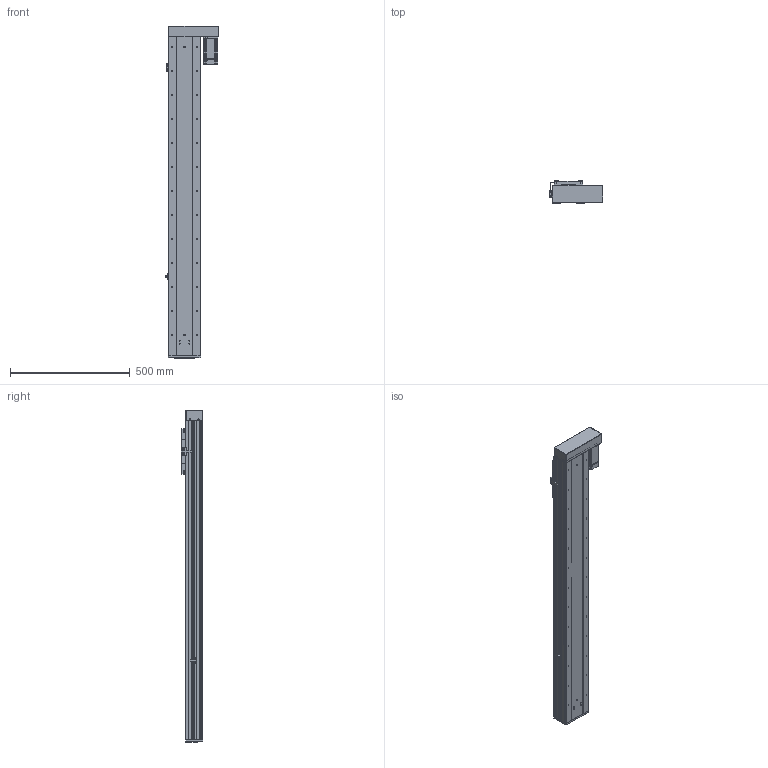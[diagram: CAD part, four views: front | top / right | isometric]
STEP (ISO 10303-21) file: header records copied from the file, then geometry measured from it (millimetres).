
FILE_DESCRIPTION (( 'STEP AP203' ), '1' );
FILE_NAME ('RY140F-L2020-300-RK.SLDASM_1050.step', '2021-03-02T08:50:53', ( '盈信电脑' ), ( '东莞市道滘镇水果街19号' ), 'SwSTEP 2.0', 'SolidWorks 2012', '' );
FILE_SCHEMA (( 'CONFIG_CONTROL_DESIGN' ));
Products named in the file (19): RY140F-L2020-300-RK.SLDASM_1050; RY140F-酘衵殏萇儂欶(400W); 侐源滅袉蝶; RY140F-左右折电机安装板(400W M5); RY140F-转折折电机座（7001）; 覜茼ん672; RY140F-672覜茼んえ; RY140F-詩湍揤え; RY140F-后盖板(铝件）; 15; RY140F-直连型材铝滑块(16丝杆); 侂狟400W侜督萇儂; RY140F-詩湍幗謫粣; RY140F-直连型材铝滑块连接座; RY140F-滅鳥奻裔; RY100F-詩湍揤踡謫; RY140F-300-RK蛌殏詩湍_1050; RY140F-300-RK倰第奻裔啣_1050; RY140F-300-RK倰第菁釱_1050
Assembly tree (23 placements, depth 3):
  RY140F-L2020-300-RK.SLDASM_1050
    RY140F-300-RK倰第菁釱_1050
    RY140F-300-RK倰第奻裔啣_1050  x2
    RY140F-300-RK蛌殏詩湍_1050
    RY140F-直连型材铝滑块连接座
    RY140F-滅鳥奻裔
    RY140F-詩湍幗謫粣
    RY100F-詩湍揤踡謫
    RY140F-直连型材铝滑块(16丝杆)
    RY140F-后盖板(铝件）
    侂狟400W侜督萇儂
      15
    覜茼ん672
    RY140F-672覜茼んえ
    RY140F-詩湍揤え  x2
    侐源滅袉蝶  x4
    RY140F-转折折电机座（7001）
    RY140F-左右折电机安装板(400W M5)
    RY140F-酘衵殏萇儂欶(400W)
Bounding box: 224.7 x 91 x 1384 mm (x, y, z)
Volume: 5122871.9 mm3; surface area: 1835762.3 mm2
Topology: 22 solids, 22 shells, 2105 faces, 5733 edges, 3620 vertices
Faces by surface type: cylinder 1032, plane 789, cone 254, bspline 26, torus 4
Entity records: 66231 total; most frequent: CARTESIAN_POINT 13909, DIRECTION 10674, ORIENTED_EDGE 10298, EDGE_CURVE 5149, AXIS2_PLACEMENT_3D 3849, VERTEX_POINT 3360, LINE 2976, VECTOR 2976
